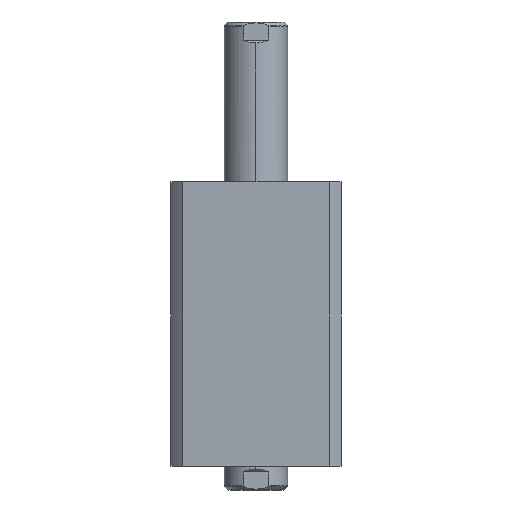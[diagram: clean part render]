
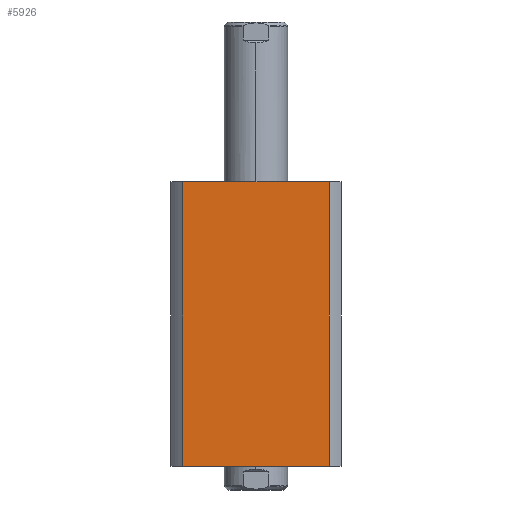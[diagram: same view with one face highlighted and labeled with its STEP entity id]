
A CAD part, left-side view. The second image highlights one B-rep face of the part: STEP entity #5926.
In plain terms, the highlighted planar face has unit normal (-1, 0, 0).
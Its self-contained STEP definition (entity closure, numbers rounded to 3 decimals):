
#197 = CARTESIAN_POINT ( 'NONE',  ( -47., 47., 157. ) ) ;
#244 = EDGE_CURVE ( 'NONE', #12423, #295, #13994, .T. ) ;
#263 = DIRECTION ( 'NONE',  ( 0., 1., 0. ) ) ;
#295 = VERTEX_POINT ( 'NONE', #1927 ) ;
#302 = CARTESIAN_POINT ( 'NONE',  ( -47., -40.435, 300. ) ) ;
#421 = DIRECTION ( 'NONE',  ( 0., 0., -1. ) ) ;
#646 = CARTESIAN_POINT ( 'NONE',  ( -47., 40.435, 0. ) ) ;
#1623 = DIRECTION ( 'NONE',  ( 0., -1., 0. ) ) ;
#1673 = ORIENTED_EDGE ( 'NONE', *, *, #244, .F. ) ;
#1927 = CARTESIAN_POINT ( 'NONE',  ( -47., -40.435, 0. ) ) ;
#4308 = ORIENTED_EDGE ( 'NONE', *, *, #10509, .F. ) ;
#4891 = DIRECTION ( 'NONE',  ( 0., 0., 1. ) ) ;
#5678 = VERTEX_POINT ( 'NONE', #7040 ) ;
#5926 = ADVANCED_FACE ( 'NONE', ( #7154 ), #17239, .F. ) ;
#5993 = CARTESIAN_POINT ( 'NONE',  ( -47., 47., 0. ) ) ;
#6204 = VECTOR ( 'NONE', #4891, 1000. ) ;
#6934 = AXIS2_PLACEMENT_3D ( 'NONE', #17337, #8803, #263 ) ;
#7040 = CARTESIAN_POINT ( 'NONE',  ( -47., 40.435, 157. ) ) ;
#7131 = LINE ( 'NONE', #13443, #6204 ) ;
#7154 = FACE_OUTER_BOUND ( 'NONE', #18011, .T. ) ;
#7532 = VERTEX_POINT ( 'NONE', #646 ) ;
#8803 = DIRECTION ( 'NONE',  ( 1., 0., 0. ) ) ;
#9703 = CARTESIAN_POINT ( 'NONE',  ( -47., -40.435, 157. ) ) ;
#10209 = VECTOR ( 'NONE', #1623, 1000. ) ;
#10284 = DIRECTION ( 'NONE',  ( 0., -1., 0. ) ) ;
#10509 = EDGE_CURVE ( 'NONE', #7532, #5678, #7131, .T. ) ;
#11366 = EDGE_CURVE ( 'NONE', #5678, #12423, #14459, .T. ) ;
#11761 = LINE ( 'NONE', #5993, #15143 ) ;
#12423 = VERTEX_POINT ( 'NONE', #9703 ) ;
#12442 = ORIENTED_EDGE ( 'NONE', *, *, #14678, .T. ) ;
#13443 = CARTESIAN_POINT ( 'NONE',  ( -47., 40.435, 300. ) ) ;
#13994 = LINE ( 'NONE', #302, #17304 ) ;
#14459 = LINE ( 'NONE', #197, #10209 ) ;
#14678 = EDGE_CURVE ( 'NONE', #7532, #295, #11761, .T. ) ;
#15143 = VECTOR ( 'NONE', #10284, 1000. ) ;
#15473 = ORIENTED_EDGE ( 'NONE', *, *, #11366, .F. ) ;
#17239 = PLANE ( 'NONE',  #6934 ) ;
#17304 = VECTOR ( 'NONE', #421, 1000. ) ;
#17337 = CARTESIAN_POINT ( 'NONE',  ( -47., 47., 157. ) ) ;
#18011 = EDGE_LOOP ( 'NONE', ( #1673, #15473, #4308, #12442 ) ) ;
